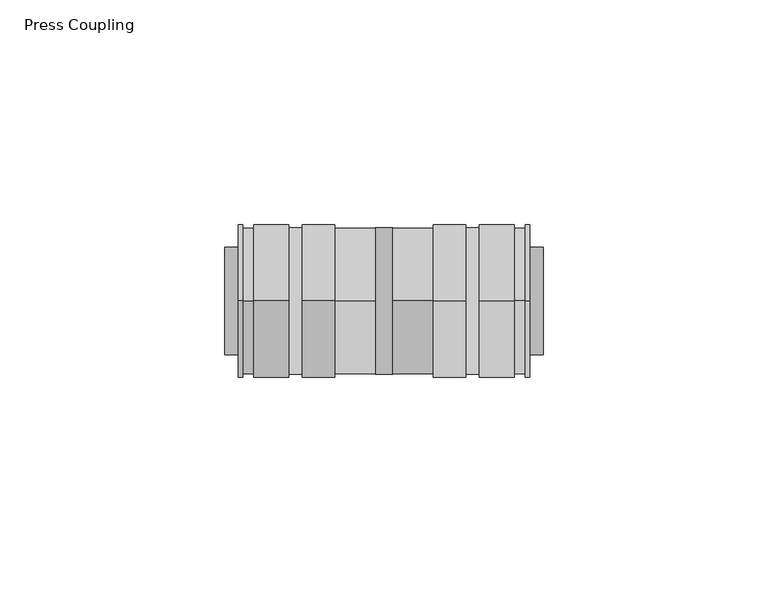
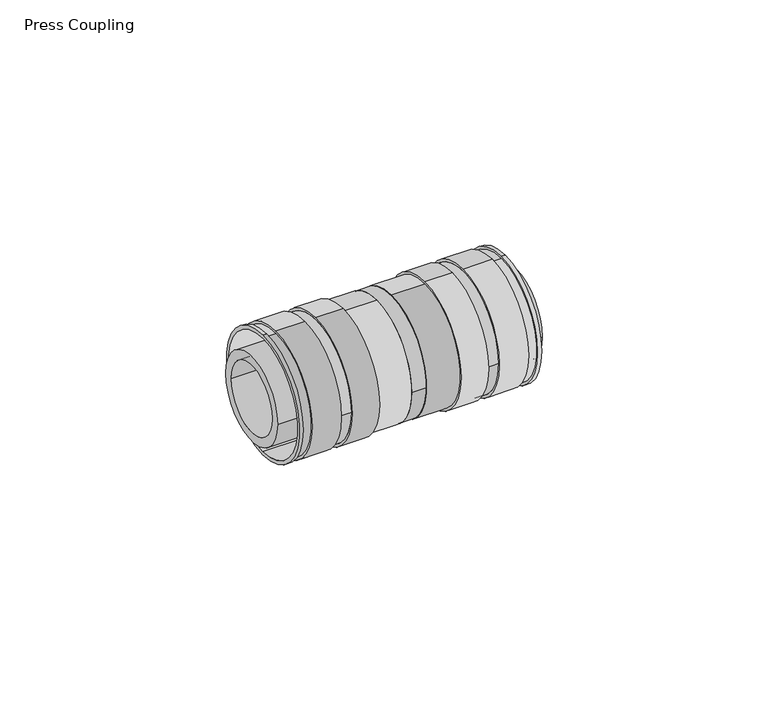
"""IFC4 building model written with IfcOpenShell, lengths in millimetres: pipe fitting geometry, Press Coupling : Superpipe Press Coupling."""

from ifc_helpers import new_model, si_unit, point, frame, frame_2d, origin, place, context, project, spatial, polyline, circle_curve, trimmed, segment, composite_curve, outline, extrude, source, transform, mapped, element, save
from ifc_brep_helpers import plane_surface, cylinder_surface, revolved_surface, advanced_brep


def press_coupling_09caa11f(model_context):
    return source(origin(), model_context, "Body", "SolidModel", [
        advanced_brep(
        [(68.0, 0.0, -17.0), (68.0, 0.0, 17.0), (68.0, 0.0, -16.0), (68.0, 0.0, 16.0), (37.5, 0.0, -16.3), (37.5, 0.0, 16.3), (37.5, 0.0, -16.0), (37.5, 0.0, 16.0), (67.0, 0.0, -17.0), (67.0, 0.0, 17.0), (64.5, 0.0, 17.0), (64.5, 0.0, -17.0), (56.75, 0.0, -17.0), (56.75, 17.0, 0.0), (56.75, 0.0, 17.0), (53.75, 17.0, 0.0), (53.75, 0.0, -17.0), (46.5, 0.0, -17.0), (46.5, 0.0, 17.0), (53.75, 0.0, 17.0), (56.75, -17.0, 0.0), (53.75, -17.0, 0.0), (64.5, 0.0, 16.3), (64.5, 0.0, -16.3), (67.0, 0.0, 16.3), (67.0, 0.0, -16.3), (56.75, 16.3, 0.0), (56.75, -16.3, 0.0), (53.75, 16.3, 0.0), (53.75, -16.3, 0.0), (46.5, 0.0, -16.3), (46.5, 0.0, 16.3)],
        [
            (0, 1, circle_curve(frame((68.0, 0.0, 0.0), z_axis=(1.0, 0.0, 0.0), x_axis=(0.0, 0.0, 1.0)), 17.0)),
            (1, 0, circle_curve(frame((68.0, 0.0, 0.0), z_axis=(1.0, 0.0, 0.0), x_axis=(0.0, 0.0, 1.0)), 17.0)),
            (2, 3, circle_curve(frame((68.0, 0.0, 0.0), z_axis=(-1.0, 0.0, 0.0), x_axis=(0.0, 0.0, 1.0)), 16.0)),
            (3, 2, circle_curve(frame((68.0, 0.0, 0.0), z_axis=(-1.0, 0.0, 0.0), x_axis=(0.0, 0.0, 1.0)), 16.0)),
            (4, 5, circle_curve(frame((37.5, 0.0, 0.0), z_axis=(-1.0, 0.0, 0.0), x_axis=(0.0, 0.0, 1.0)), 16.3)),
            (5, 4, circle_curve(frame((37.5, 0.0, 0.0), z_axis=(-1.0, 0.0, 0.0), x_axis=(0.0, 0.0, 1.0)), 16.3)),
            (6, 7, circle_curve(frame((37.5, 0.0, 0.0), z_axis=(1.0, 0.0, 0.0), x_axis=(0.0, 0.0, 1.0)), 16.0)),
            (7, 6, circle_curve(frame((37.5, 0.0, 0.0), z_axis=(1.0, 0.0, 0.0), x_axis=(0.0, 0.0, 1.0)), 16.0)),
            (0, 8),
            (8, 9, circle_curve(frame((67.0, 0.0, 0.0), z_axis=(1.0, 0.0, 0.0), x_axis=(0.0, 0.0, 1.0)), 17.0)),
            (9, 1),
            (10, 11, circle_curve(frame((64.5, 0.0, 0.0), z_axis=(-1.0, 0.0, 0.0), x_axis=(0.0, 0.0, 1.0)), 17.0)),
            (11, 12),
            (12, 13, circle_curve(frame((56.75, 0.0, 0.0), z_axis=(1.0, 0.0, 0.0), x_axis=(0.0, 0.0, 1.0)), 17.0)),
            (13, 14, circle_curve(frame((56.75, 0.0, 0.0), z_axis=(1.0, 0.0, 0.0), x_axis=(0.0, 0.0, 1.0)), 17.0)),
            (14, 10),
            (15, 16, circle_curve(frame((53.75, 0.0, 0.0), z_axis=(-1.0, 0.0, 0.0), x_axis=(0.0, 0.0, 1.0)), 17.0)),
            (16, 17),
            (17, 18, circle_curve(frame((46.5, 0.0, 0.0), z_axis=(1.0, 0.0, 0.0), x_axis=(0.0, 0.0, 1.0)), 17.0)),
            (18, 19),
            (19, 15, circle_curve(frame((53.75, 0.0, 0.0), z_axis=(-1.0, 0.0, 0.0), x_axis=(0.0, 0.0, 1.0)), 17.0)),
            (9, 8, circle_curve(frame((67.0, 0.0, 0.0), z_axis=(1.0, 0.0, 0.0), x_axis=(0.0, 0.0, 1.0)), 17.0)),
            (11, 10, circle_curve(frame((64.5, 0.0, 0.0), z_axis=(-1.0, 0.0, 0.0), x_axis=(0.0, 0.0, 1.0)), 17.0)),
            (14, 20, circle_curve(frame((56.75, 0.0, 0.0), z_axis=(1.0, 0.0, 0.0), x_axis=(0.0, 0.0, 1.0)), 17.0)),
            (20, 12, circle_curve(frame((56.75, 0.0, 0.0), z_axis=(1.0, 0.0, 0.0), x_axis=(0.0, 0.0, 1.0)), 17.0)),
            (16, 21, circle_curve(frame((53.75, 0.0, 0.0), z_axis=(-1.0, 0.0, 0.0), x_axis=(0.0, 0.0, 1.0)), 17.0)),
            (21, 19, circle_curve(frame((53.75, 0.0, 0.0), z_axis=(-1.0, 0.0, 0.0), x_axis=(0.0, 0.0, 1.0)), 17.0)),
            (18, 17, circle_curve(frame((46.5, 0.0, 0.0), z_axis=(1.0, 0.0, 0.0), x_axis=(0.0, 0.0, 1.0)), 17.0)),
            (2, 6),
            (7, 3),
            (22, 23, circle_curve(frame((64.5, 0.0, 0.0), z_axis=(-1.0, 0.0, 0.0), x_axis=(0.0, 0.0, -1.0)), 16.3)),
            (23, 22, circle_curve(frame((64.5, 0.0, 0.0), z_axis=(-1.0, 0.0, 0.0), x_axis=(0.0, 0.0, -1.0)), 16.3)),
            (24, 25, circle_curve(frame((67.0, 0.0, 0.0), z_axis=(1.0, 0.0, 0.0), x_axis=(0.0, 0.0, -1.0)), 16.3)),
            (25, 24, circle_curve(frame((67.0, 0.0, 0.0), z_axis=(1.0, 0.0, 0.0), x_axis=(0.0, 0.0, -1.0)), 16.3)),
            (23, 25),
            (24, 22),
            (26, 27, circle_curve(frame((56.75, 0.0, 0.0), z_axis=(1.0, 0.0, 0.0), x_axis=(0.0, -1.0, 0.0)), 16.3)),
            (27, 26, circle_curve(frame((56.75, 0.0, 0.0), z_axis=(1.0, 0.0, 0.0), x_axis=(0.0, -1.0, 0.0)), 16.3)),
            (28, 29, circle_curve(frame((53.75, 0.0, 0.0), z_axis=(-1.0, 0.0, 0.0), x_axis=(0.0, -1.0, 0.0)), 16.3)),
            (29, 28, circle_curve(frame((53.75, 0.0, 0.0), z_axis=(-1.0, 0.0, 0.0), x_axis=(0.0, -1.0, 0.0)), 16.3)),
            (26, 28),
            (29, 27),
            (30, 31, circle_curve(frame((46.5, 0.0, 0.0), z_axis=(1.0, 0.0, 0.0), x_axis=(0.0, 0.0, 1.0)), 16.3)),
            (31, 30, circle_curve(frame((46.5, 0.0, 0.0), z_axis=(1.0, 0.0, 0.0), x_axis=(0.0, 0.0, 1.0)), 16.3)),
            (31, 5),
            (4, 30),
        ],
        [
            plane_surface(frame((68.0, 0.0, 17.0), z_axis=(1.0, 0.0, 0.0), x_axis=(0.0, -1.0, 0.0))),
            plane_surface(frame((37.5, 0.0, 17.0), z_axis=(-1.0, 0.0, 0.0), x_axis=(0.0, 1.0, 0.0))),
            cylinder_surface(frame((37.5, 0.0, 0.0), z_axis=(1.0, 0.0, 0.0), x_axis=(0.0, 0.0, 1.0)), 17.0),
            revolved_surface(polyline([(37.5, 0.0, 16.0), (68.0, 0.0, 16.0)]), (37.5, 0.0, 0.0), (-1.0, 0.0, 0.0)),
            plane_surface(frame((64.5, 0.0, -17.0), z_axis=(1.0, 0.0, 0.0), x_axis=(0.0, -1.0, 0.0))),
            plane_surface(frame((67.0, 0.0, -17.0), z_axis=(-1.0, 0.0, 0.0), x_axis=(0.0, 1.0, 0.0))),
            cylinder_surface(frame((68.0, 0.0, 0.0), z_axis=(1.0, 0.0, 0.0), x_axis=(0.0, 0.0, -1.0)), 16.3),
            plane_surface(frame((56.75, -17.0, 0.0), z_axis=(-1.0, 0.0, 0.0), x_axis=(0.0, 0.0, -1.0))),
            plane_surface(frame((53.75, -17.0, 0.0), z_axis=(1.0, 0.0, 0.0), x_axis=(0.0, 0.0, 1.0))),
            cylinder_surface(frame((53.75, 0.0, 0.0), z_axis=(1.0, 0.0, 0.0), x_axis=(0.0, -1.0, 0.0)), 16.3),
            plane_surface(frame((46.5, 0.0, 17.0), z_axis=(-1.0, 0.0, 0.0), x_axis=(0.0, -1.0, 0.0))),
            cylinder_surface(frame((37.5, 0.0, 0.0), z_axis=(-1.0, 0.0, 0.0), x_axis=(0.0, 0.0, 1.0)), 16.3),
        ],
        [
            (0, [[1, 2], [3, 4]]),
            (1, [[5, 6], [7, 8]]),
            (2, [[-1, 9, 10, 11]]),
            (2, [[12, 13, 14, 15, 16]]),
            (2, [[17, 18, 19, 20, 21]]),
            (2, [[-2, -11, 22, -9]]),
            (2, [[23, -16, 24, 25, -13]]),
            (2, [[26, 27, -20, 28, -18]]),
            (3, [[-3, 29, -8, 30]]),
            (3, [[-4, -30, -7, -29]]),
            (4, [[-12, -23], [31, 32]]),
            (5, [[-10, -22], [33, 34]]),
            (6, [[-32, 35, -33, 36]]),
            (6, [[-31, -36, -34, -35]]),
            (7, [[-14, -25, -24, -15], [37, 38]]),
            (8, [[-17, -21, -27, -26], [39, 40]]),
            (9, [[-37, 41, -40, 42]]),
            (9, [[-38, -42, -39, -41]]),
            (10, [[-19, -28], [43, 44]]),
            (11, [[-44, 45, -5, 46]]),
            (11, [[-43, -46, -6, -45]]),
        ],
    ),
        advanced_brep(
        [(3.0, 0.0, -17.0), (3.0, 0.0, 17.0), (3.0, 0.0, -16.0), (3.0, 0.0, 16.0), (33.5, 0.0, -16.3), (33.5, 0.0, 16.3), (33.5, 0.0, -16.0), (33.5, 0.0, 16.0), (4.0, 0.0, -17.0), (4.0, 0.0, 17.0), (6.5, 0.0, 17.0), (6.5, 0.0, -17.0), (14.25, 0.0, -17.0), (14.25, -17.0, 0.0), (14.25, 0.0, 17.0), (24.5, 0.0, -17.0), (24.5, 0.0, 17.0), (17.25, 0.0, 17.0), (17.25, -17.0, 0.0), (17.25, 0.0, -17.0), (14.25, 17.0, 0.0), (17.25, 17.0, 0.0), (6.5, 0.0, 16.3), (6.5, 0.0, -16.3), (4.0, 0.0, 16.3), (4.0, 0.0, -16.3), (24.5, 0.0, -16.3), (24.5, 0.0, 16.3), (14.25, 16.3, 0.0), (14.25, -16.3, 0.0), (17.25, 16.3, 0.0), (17.25, -16.3, 0.0)],
        [
            (0, 1, circle_curve(frame((3.0, 0.0, 0.0), z_axis=(-1.0, 0.0, 0.0), x_axis=(0.0, 0.0, 1.0)), 17.0)),
            (1, 0, circle_curve(frame((3.0, 0.0, 0.0), z_axis=(-1.0, 0.0, 0.0), x_axis=(0.0, 0.0, 1.0)), 17.0)),
            (2, 3, circle_curve(frame((3.0, 0.0, 0.0), z_axis=(1.0, 0.0, 0.0), x_axis=(0.0, 0.0, 1.0)), 16.0)),
            (3, 2, circle_curve(frame((3.0, 0.0, 0.0), z_axis=(1.0, 0.0, 0.0), x_axis=(0.0, 0.0, 1.0)), 16.0)),
            (4, 5, circle_curve(frame((33.5, 0.0, 0.0), z_axis=(1.0, 0.0, 0.0), x_axis=(0.0, 0.0, 1.0)), 16.3)),
            (5, 4, circle_curve(frame((33.5, 0.0, 0.0), z_axis=(1.0, 0.0, 0.0), x_axis=(0.0, 0.0, 1.0)), 16.3)),
            (6, 7, circle_curve(frame((33.5, 0.0, 0.0), z_axis=(-1.0, 0.0, 0.0), x_axis=(0.0, 0.0, 1.0)), 16.0)),
            (7, 6, circle_curve(frame((33.5, 0.0, 0.0), z_axis=(-1.0, 0.0, 0.0), x_axis=(0.0, 0.0, 1.0)), 16.0)),
            (0, 8),
            (8, 9, circle_curve(frame((4.0, 0.0, 0.0), z_axis=(-1.0, 0.0, 0.0), x_axis=(0.0, 0.0, 1.0)), 17.0)),
            (9, 1),
            (10, 11, circle_curve(frame((6.5, 0.0, 0.0), z_axis=(1.0, 0.0, 0.0), x_axis=(0.0, 0.0, 1.0)), 17.0)),
            (11, 12),
            (12, 13, circle_curve(frame((14.25, 0.0, 0.0), z_axis=(-1.0, 0.0, 0.0), x_axis=(0.0, 0.0, 1.0)), 17.0)),
            (13, 14, circle_curve(frame((14.25, 0.0, 0.0), z_axis=(-1.0, 0.0, 0.0), x_axis=(0.0, 0.0, 1.0)), 17.0)),
            (14, 10),
            (15, 16, circle_curve(frame((24.5, 0.0, 0.0), z_axis=(-1.0, 0.0, 0.0), x_axis=(0.0, 0.0, 1.0)), 17.0)),
            (16, 17),
            (17, 18, circle_curve(frame((17.25, 0.0, 0.0), z_axis=(1.0, 0.0, 0.0), x_axis=(0.0, 0.0, 1.0)), 17.0)),
            (18, 19, circle_curve(frame((17.25, 0.0, 0.0), z_axis=(1.0, 0.0, 0.0), x_axis=(0.0, 0.0, 1.0)), 17.0)),
            (19, 15),
            (9, 8, circle_curve(frame((4.0, 0.0, 0.0), z_axis=(-1.0, 0.0, 0.0), x_axis=(0.0, 0.0, 1.0)), 17.0)),
            (11, 10, circle_curve(frame((6.5, 0.0, 0.0), z_axis=(1.0, 0.0, 0.0), x_axis=(0.0, 0.0, 1.0)), 17.0)),
            (14, 20, circle_curve(frame((14.25, 0.0, 0.0), z_axis=(-1.0, 0.0, 0.0), x_axis=(0.0, 0.0, 1.0)), 17.0)),
            (20, 12, circle_curve(frame((14.25, 0.0, 0.0), z_axis=(-1.0, 0.0, 0.0), x_axis=(0.0, 0.0, 1.0)), 17.0)),
            (16, 15, circle_curve(frame((24.5, 0.0, 0.0), z_axis=(-1.0, 0.0, 0.0), x_axis=(0.0, 0.0, 1.0)), 17.0)),
            (19, 21, circle_curve(frame((17.25, 0.0, 0.0), z_axis=(1.0, 0.0, 0.0), x_axis=(0.0, 0.0, 1.0)), 17.0)),
            (21, 17, circle_curve(frame((17.25, 0.0, 0.0), z_axis=(1.0, 0.0, 0.0), x_axis=(0.0, 0.0, 1.0)), 17.0)),
            (2, 6),
            (7, 3),
            (22, 23, circle_curve(frame((6.5, 0.0, 0.0), z_axis=(1.0, 0.0, 0.0), x_axis=(0.0, 0.0, -1.0)), 16.3)),
            (23, 22, circle_curve(frame((6.5, 0.0, 0.0), z_axis=(1.0, 0.0, 0.0), x_axis=(0.0, 0.0, -1.0)), 16.3)),
            (24, 25, circle_curve(frame((4.0, 0.0, 0.0), z_axis=(-1.0, 0.0, 0.0), x_axis=(0.0, 0.0, -1.0)), 16.3)),
            (25, 24, circle_curve(frame((4.0, 0.0, 0.0), z_axis=(-1.0, 0.0, 0.0), x_axis=(0.0, 0.0, -1.0)), 16.3)),
            (23, 25),
            (24, 22),
            (26, 27, circle_curve(frame((24.5, 0.0, 0.0), z_axis=(-1.0, 0.0, 0.0), x_axis=(0.0, 0.0, 1.0)), 16.3)),
            (27, 26, circle_curve(frame((24.5, 0.0, 0.0), z_axis=(-1.0, 0.0, 0.0), x_axis=(0.0, 0.0, 1.0)), 16.3)),
            (27, 5),
            (4, 26),
            (28, 29, circle_curve(frame((14.25, 0.0, 0.0), z_axis=(-1.0, 0.0, 0.0), x_axis=(0.0, -1.0, 0.0)), 16.3)),
            (29, 28, circle_curve(frame((14.25, 0.0, 0.0), z_axis=(-1.0, 0.0, 0.0), x_axis=(0.0, -1.0, 0.0)), 16.3)),
            (30, 31, circle_curve(frame((17.25, 0.0, 0.0), z_axis=(1.0, 0.0, 0.0), x_axis=(0.0, -1.0, 0.0)), 16.3)),
            (31, 30, circle_curve(frame((17.25, 0.0, 0.0), z_axis=(1.0, 0.0, 0.0), x_axis=(0.0, -1.0, 0.0)), 16.3)),
            (29, 31),
            (30, 28),
        ],
        [
            plane_surface(frame((3.0, 0.0, 17.0), z_axis=(-1.0, 0.0, 0.0), x_axis=(0.0, 1.0, 0.0))),
            plane_surface(frame((33.5, 0.0, 17.0), z_axis=(1.0, 0.0, 0.0), x_axis=(0.0, -1.0, 0.0))),
            cylinder_surface(frame((33.5, 0.0, 0.0), z_axis=(-1.0, 0.0, 0.0), x_axis=(0.0, 0.0, 1.0)), 17.0),
            revolved_surface(polyline([(33.5, 0.0, 16.0), (3.0, 0.0, 16.0)]), (33.5, 0.0, 0.0), (1.0, 0.0, 0.0)),
            plane_surface(frame((6.5, 0.0, -17.0), z_axis=(-1.0, 0.0, 0.0), x_axis=(0.0, 1.0, 0.0))),
            plane_surface(frame((4.0, 0.0, -17.0), z_axis=(1.0, 0.0, 0.0), x_axis=(0.0, -1.0, 0.0))),
            cylinder_surface(frame((3.0, 0.0, 0.0), z_axis=(-1.0, 0.0, 0.0), x_axis=(0.0, 0.0, -1.0)), 16.3),
            plane_surface(frame((24.5, 0.0, 17.0), z_axis=(1.0, 0.0, 0.0), x_axis=(0.0, 1.0, 0.0))),
            cylinder_surface(frame((33.5, 0.0, 0.0), z_axis=(1.0, 0.0, 0.0), x_axis=(0.0, 0.0, 1.0)), 16.3),
            plane_surface(frame((14.25, -17.0, 0.0), z_axis=(1.0, 0.0, 0.0), x_axis=(0.0, 0.0, 1.0))),
            plane_surface(frame((17.25, -17.0, 0.0), z_axis=(-1.0, 0.0, 0.0), x_axis=(0.0, 0.0, -1.0))),
            cylinder_surface(frame((17.25, 0.0, 0.0), z_axis=(1.0, 0.0, 0.0), x_axis=(0.0, -1.0, 0.0)), 16.3),
        ],
        [
            (0, [[1, 2], [3, 4]]),
            (1, [[5, 6], [7, 8]]),
            (2, [[-1, 9, 10, 11]]),
            (2, [[12, 13, 14, 15, 16]]),
            (2, [[17, 18, 19, 20, 21]]),
            (2, [[-2, -11, 22, -9]]),
            (2, [[23, -16, 24, 25, -13]]),
            (2, [[26, -21, 27, 28, -18]]),
            (3, [[-3, 29, -8, 30]]),
            (3, [[-4, -30, -7, -29]]),
            (4, [[-12, -23], [31, 32]]),
            (5, [[-10, -22], [33, 34]]),
            (6, [[-32, 35, -33, 36]]),
            (6, [[-31, -36, -34, -35]]),
            (7, [[-17, -26], [37, 38]]),
            (8, [[-38, 39, -5, 40]]),
            (8, [[-37, -40, -6, -39]]),
            (9, [[-14, -25, -24, -15], [41, 42]]),
            (10, [[-20, -19, -28, -27], [43, 44]]),
            (11, [[-42, 45, -43, 46]]),
            (11, [[-41, -46, -44, -45]]),
        ],
    ),
        extrude(outline(composite_curve([segment(trimmed(circle_curve(frame_2d((-0.000673, 0.0)), 12.0), [point((-12.000673, 0.0))], [point((11.999327, 0.0))], False, "CARTESIAN"), True, "CONTINUOUS"), segment(trimmed(circle_curve(frame_2d((-0.000673, 0.0)), 12.0), [point((11.999327, 0.0))], [point((-12.000673, 0.0))], False, "CARTESIAN"), True, "CONTINUOUS")], self_intersect=False), holes=[composite_curve([segment(trimmed(circle_curve(frame_2d((-0.000673, 0.0)), 9.5), [point((9.499327, 0.0))], [point((-9.500673, 0.0))], True, "CARTESIAN"), True, "CONTINUOUS"), segment(trimmed(circle_curve(frame_2d((-0.000673, 0.0)), 9.5), [point((-9.500673, 0.0))], [point((9.499327, 0.0))], True, "CARTESIAN"), True, "CONTINUOUS")], self_intersect=False)]), frame((37.5, 0.0, 0.0), z_axis=(1.0, 0.0, 0.0), x_axis=(0.0, 1.0, 0.0)), (0.0, 0.0, 1.0), 33.5),
        extrude(outline(composite_curve([segment(trimmed(circle_curve(frame_2d((-0.000673, 0.0)), 12.0), [point((-12.000673, 0.0))], [point((11.999327, 0.0))], False, "CARTESIAN"), True, "CONTINUOUS"), segment(trimmed(circle_curve(frame_2d((-0.000673, 0.0)), 12.0), [point((11.999327, 0.0))], [point((-12.000673, 0.0))], False, "CARTESIAN"), True, "CONTINUOUS")], self_intersect=False), holes=[composite_curve([segment(trimmed(circle_curve(frame_2d((-0.000673, 0.0)), 9.5), [point((9.499327, 0.0))], [point((-9.500673, 0.0))], True, "CARTESIAN"), True, "CONTINUOUS"), segment(trimmed(circle_curve(frame_2d((-0.000673, 0.0)), 9.5), [point((-9.500673, 0.0))], [point((9.499327, 0.0))], True, "CARTESIAN"), True, "CONTINUOUS")], self_intersect=False)]), frame((0.0, 0.0, 0.0), z_axis=(1.0, 0.0, 0.0), x_axis=(0.0, 1.0, 0.0)), (0.0, 0.0, 1.0), 33.5),
        extrude(outline(composite_curve([segment(trimmed(circle_curve(frame_2d((-0.000673, 0.0)), 16.3), [point((-16.300673, 0.0))], [point((16.299327, 0.0))], False, "CARTESIAN"), True, "CONTINUOUS"), segment(trimmed(circle_curve(frame_2d((-0.000673, 0.0)), 16.3), [point((16.299327, 0.0))], [point((-16.300673, 0.0))], False, "CARTESIAN"), True, "CONTINUOUS")], self_intersect=False), holes=[composite_curve([segment(trimmed(circle_curve(frame_2d((-0.000673, 0.0)), 9.5), [point((9.499327, 0.0))], [point((-9.500673, 0.0))], True, "CARTESIAN"), True, "CONTINUOUS"), segment(trimmed(circle_curve(frame_2d((-0.000673, 0.0)), 9.5), [point((-9.500673, 0.0))], [point((9.499327, 0.0))], True, "CARTESIAN"), True, "CONTINUOUS")], self_intersect=False)]), frame((33.5, 0.0, 0.0), z_axis=(1.0, 0.0, 0.0), x_axis=(0.0, 1.0, 0.0)), (0.0, 0.0, 1.0), 4.0),
    ])


if __name__ == "__main__":
    model = new_model("IFC4")
    model_context = context("Model", 3, world=origin())
    ifc_project = project(units=[si_unit("LENGTHUNIT", "METRE", prefix="MILLI")], contexts=[model_context])
    site = spatial("IfcSite", under=ifc_project)
    building = spatial("IfcBuilding", under=site)
    placement = place(None, origin())
    press_coupling_shape = press_coupling_09caa11f(model_context)
    element("IfcPipeFitting", 1, ObjectType="Press Coupling : Superpipe Press Coupling", at=placement, inside=building, context=model_context, shape_type="MappedRepresentation", body=[
        mapped(press_coupling_shape, transform((0.0, 0.0, 0.0), x_axis=(1.0, 0.0, 0.0), y_axis=(0.0, 1.0, 0.0), z_axis=(0.0, 0.0, 1.0))),
    ])
    save(model, "model.ifc")
